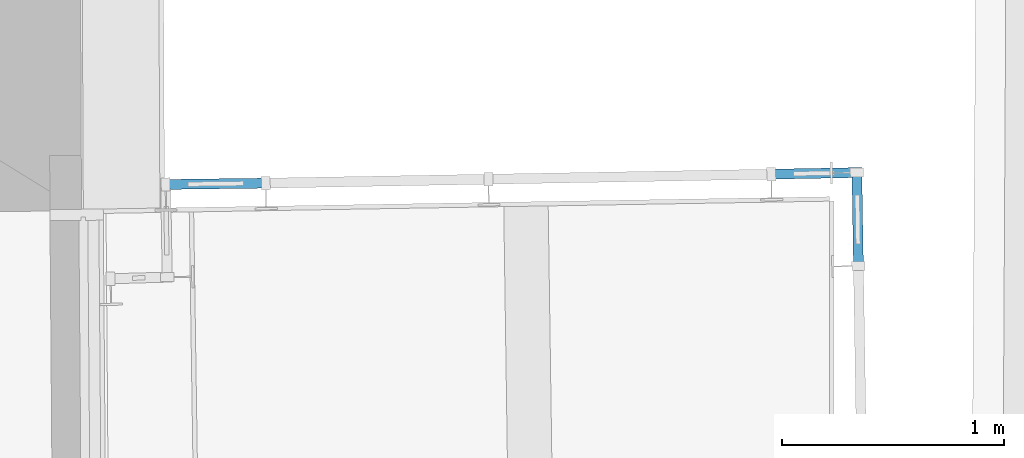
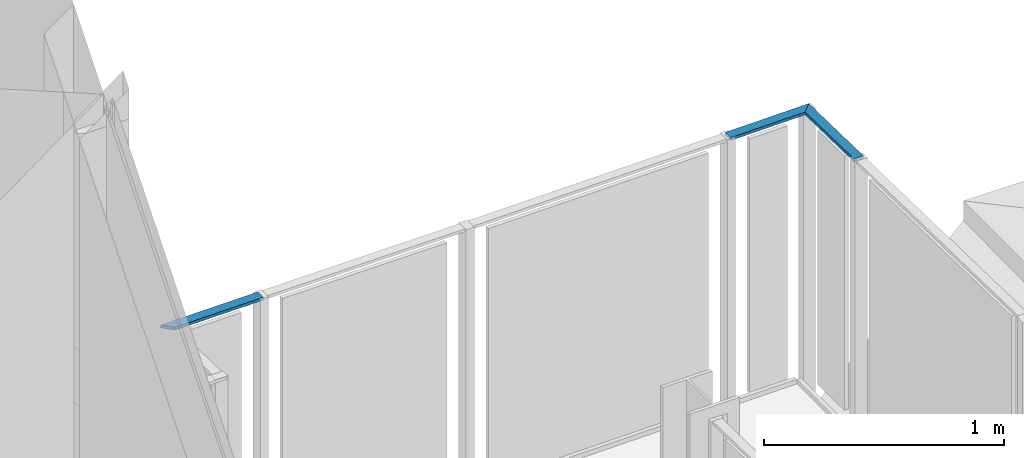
# One storey, part 136 of 158: 3 building element parts, 1 element without a shape of its own.
"""IFC2X3 building model written with IfcOpenShell, lengths in metres."""

from ifc_helpers import new_model, entity, si_unit, converted_unit, derived_unit, money_unit, direction, frame, origin_with_axes, place, context, subcontext, project, spatial, faceted_brep, material, type_object, element, aggregate, save


model = new_model("IFC2X3")

# Units and contexts
model_context = context("Model", 3, precision=1e-05, world=origin_with_axes(), true_north=direction((0.0, 1.0)))
body_context = subcontext(model_context, "Body", "Model", "MODEL_VIEW")
ifc_project = project(units=[si_unit("LENGTHUNIT", "METRE"), si_unit("AREAUNIT", "SQUARE_METRE"), si_unit("VOLUMEUNIT", "CUBIC_METRE"), converted_unit("PLANEANGLEUNIT", "DEGREE", entity("IfcPlaneAngleMeasure", 0.0174532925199), si_unit("PLANEANGLEUNIT", "RADIAN"), dimensions=[0, 0, 0, 0, 0, 0, 0]), money_unit("EUR"), converted_unit("TIMEUNIT", "Year", entity("IfcTimeMeasure", 31556926.0), si_unit("TIMEUNIT", "SECOND"), dimensions=[0, 0, 1, 0, 0, 0, 0]), si_unit("MASSUNIT", "GRAM", prefix="KILO"), si_unit("THERMODYNAMICTEMPERATUREUNIT", "DEGREE_CELSIUS"), si_unit("LUMINOUSINTENSITYUNIT", "LUMEN"), si_unit("ENERGYUNIT", "JOULE", prefix="MEGA"), derived_unit("THERMALCONDUCTANCEUNIT", [(si_unit("POWERUNIT", "WATT"), 1), (si_unit("LENGTHUNIT", "METRE"), -1), (si_unit("THERMODYNAMICTEMPERATUREUNIT", "KELVIN"), -1)]), derived_unit("SPECIFICHEATCAPACITYUNIT", [(si_unit("ENERGYUNIT", "JOULE"), 1), (si_unit("MASSUNIT", "GRAM", prefix="KILO"), -1), (si_unit("THERMODYNAMICTEMPERATUREUNIT", "KELVIN"), -1)]), derived_unit("MASSDENSITYUNIT", [(si_unit("MASSUNIT", "GRAM", prefix="KILO"), 1), (si_unit("VOLUMEUNIT", "CUBIC_METRE"), -1)])], contexts=[model_context])

# Site, building, storey
site_placement = place(None, origin_with_axes())
site = spatial("IfcSite", under=ifc_project, at=site_placement, Name="Gelände", CompositionType="ELEMENT")
building_placement = place(site_placement, origin_with_axes())
building = spatial("IfcBuilding", under=site, at=building_placement, Name="Gebäude", CompositionType="ELEMENT")
storey_placement = place(building_placement, origin_with_axes())
storey = spatial("IfcBuildingStorey", under=building, at=storey_placement, Name="ERDGESCHOSS", CompositionType="ELEMENT", Elevation=0.0)

# Proxy, building element parts
building_element_proxy_type = type_object("IfcBuildingElementProxyType", Name="Geländerart", PredefinedType="NOTDEFINED")
proxy_placement = place(storey_placement, frame((-12.121386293, 39.1724071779, -2.51797066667), z_axis=(0.0, 0.0, 1.0), x_axis=(1.0, 0.0, 0.0)))
proxy = element("IfcBuildingElementProxy", 1, at=proxy_placement, inside=storey, type_object=building_element_proxy_type, Name="Geländer-001")
ifc_material = material(Name="56_Metall, Stahl verzinkt")
building_element_part_1_placement = place(proxy_placement, origin_with_axes())
building_element_part_1 = element("IfcBuildingElementPart", 2, at=building_element_part_1_placement, material=ifc_material, Name="56_Metall, Stahl verzinkt", context=body_context, shape_type="Brep", body=[
    faceted_brep([(0.035797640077, 7.94058771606, 5.118423), (0.035797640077, 7.94058771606, 5.103423), (0.028481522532, 8.38352612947, 5.103423), (0.028481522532, 8.38352612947, 5.118423), (-0.0091963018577, 7.93984933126, 5.118423), (-0.0091963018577, 7.93984933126, 5.103423), (-0.0157676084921, 8.33769478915, 5.103423), (-0.0157676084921, 8.33769478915, 5.118423)], [[[0, 1, 2, 3]], [[0, 4, 5, 1]], [[1, 5, 6, 2]], [[3, 2, 6, 7]], [[4, 0, 3, 7]], [[5, 4, 7, 6]]]),
])
building_element_part_2_placement = place(proxy_placement, origin_with_axes())
building_element_part_2 = element("IfcBuildingElementPart", 3, at=building_element_part_2_placement, material=ifc_material, Name="56_Metall, Stahl verzinkt", context=body_context, shape_type="Brep", body=[
    faceted_brep([(0.028481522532, 8.38352612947, 5.118423), (0.028481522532, 8.38352612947, 5.103423), (-0.379321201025, 8.3759362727, 5.103423), (-0.379309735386, 8.37593648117, 5.118423), (-0.0157676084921, 8.33769478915, 5.118423), (-0.0157676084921, 8.33769478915, 5.103423), (-0.378503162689, 8.33094370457, 5.103423), (-0.37849169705, 8.33094391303, 5.118423)], [[[0, 1, 2, 3]], [[0, 4, 5, 1]], [[1, 5, 6, 2]], [[3, 2, 6, 7]], [[4, 0, 3, 7]], [[5, 4, 7, 6]]]),
])
building_element_part_3_placement = place(proxy_placement, origin_with_axes())
building_element_part_3 = element("IfcBuildingElementPart", 4, at=building_element_part_3_placement, material=ifc_material, Name="56_Metall, Stahl verzinkt", context=body_context, shape_type="Brep", body=[
    faceted_brep([(-2.65334229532, 8.33562894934, 5.126869), (-2.65339095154, 8.33562819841, 5.111869), (-3.12629795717, 8.32939740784, 5.111869), (-2.65264786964, 8.29063419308, 5.126869), (-2.65269652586, 8.29063344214, 5.111869), (-3.08054083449, 8.28499638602, 5.111869), (-3.12629795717, 8.32939740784, 5.126869), (-3.08054083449, 8.28499638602, 5.126869)], [[[0, 1, 2]], [[0, 3, 4, 1]], [[1, 4, 5, 2]], [[0, 2, 6]], [[3, 0, 6, 7]], [[4, 3, 7]], [[4, 7, 5]], [[6, 2, 5, 7]]]),
])
aggregate(proxy, [building_element_part_1, building_element_part_2, building_element_part_3])

save(model, "model.ifc")
